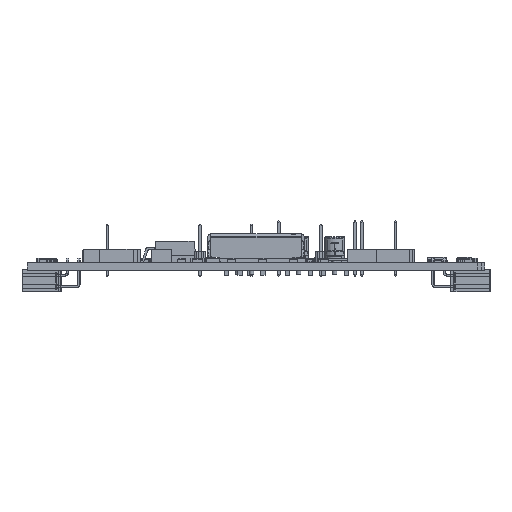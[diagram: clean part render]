
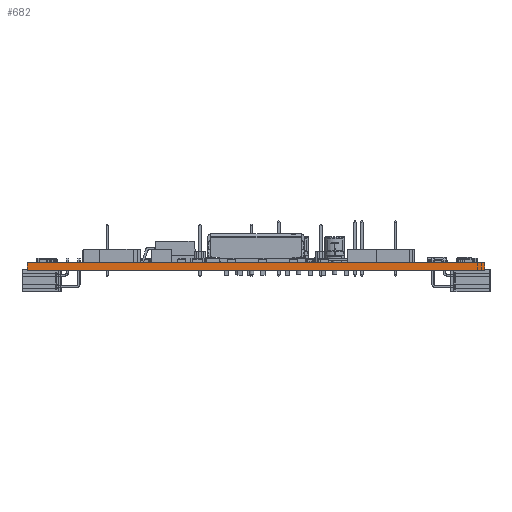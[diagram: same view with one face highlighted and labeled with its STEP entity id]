
A CAD part, left-side view. The second image highlights one B-rep face of the part: STEP entity #682.
In plain terms, the highlighted planar face has unit normal (-1, 0, 0).
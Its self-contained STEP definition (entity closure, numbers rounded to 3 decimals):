
#584 = EDGE_CURVE('',#585,#587,#589,.T.);
#585 = VERTEX_POINT('',#586);
#586 = CARTESIAN_POINT('',(0.,0.,-1.57));
#587 = VERTEX_POINT('',#588);
#588 = CARTESIAN_POINT('',(0.,0.,0.));
#589 = LINE('',#590,#591);
#590 = CARTESIAN_POINT('',(0.,0.,-1.57));
#591 = VECTOR('',#592,1.);
#592 = DIRECTION('',(0.,0.,1.));
#657 = VERTEX_POINT('',#658);
#658 = CARTESIAN_POINT('',(0.,101.6,0.));
#664 = EDGE_CURVE('',#665,#657,#667,.T.);
#665 = VERTEX_POINT('',#666);
#666 = CARTESIAN_POINT('',(0.,101.6,-1.57));
#667 = LINE('',#668,#669);
#668 = CARTESIAN_POINT('',(0.,101.6,-1.57));
#669 = VECTOR('',#670,1.);
#670 = DIRECTION('',(0.,0.,1.));
#682 = ADVANCED_FACE('',(#683),#699,.F.);
#683 = FACE_BOUND('',#684,.F.);
#684 = EDGE_LOOP('',(#685,#686,#692,#693));
#685 = ORIENTED_EDGE('',*,*,#664,.T.);
#686 = ORIENTED_EDGE('',*,*,#687,.T.);
#687 = EDGE_CURVE('',#657,#587,#688,.T.);
#688 = LINE('',#689,#690);
#689 = CARTESIAN_POINT('',(0.,101.6,0.));
#690 = VECTOR('',#691,1.);
#691 = DIRECTION('',(0.,-1.,0.));
#692 = ORIENTED_EDGE('',*,*,#584,.F.);
#693 = ORIENTED_EDGE('',*,*,#694,.F.);
#694 = EDGE_CURVE('',#665,#585,#695,.T.);
#695 = LINE('',#696,#697);
#696 = CARTESIAN_POINT('',(0.,101.6,-1.57));
#697 = VECTOR('',#698,1.);
#698 = DIRECTION('',(0.,-1.,0.));
#699 = PLANE('',#700);
#700 = AXIS2_PLACEMENT_3D('',#701,#702,#703);
#701 = CARTESIAN_POINT('',(0.,101.6,-1.57));
#702 = DIRECTION('',(1.,0.,0.));
#703 = DIRECTION('',(0.,-1.,0.));
